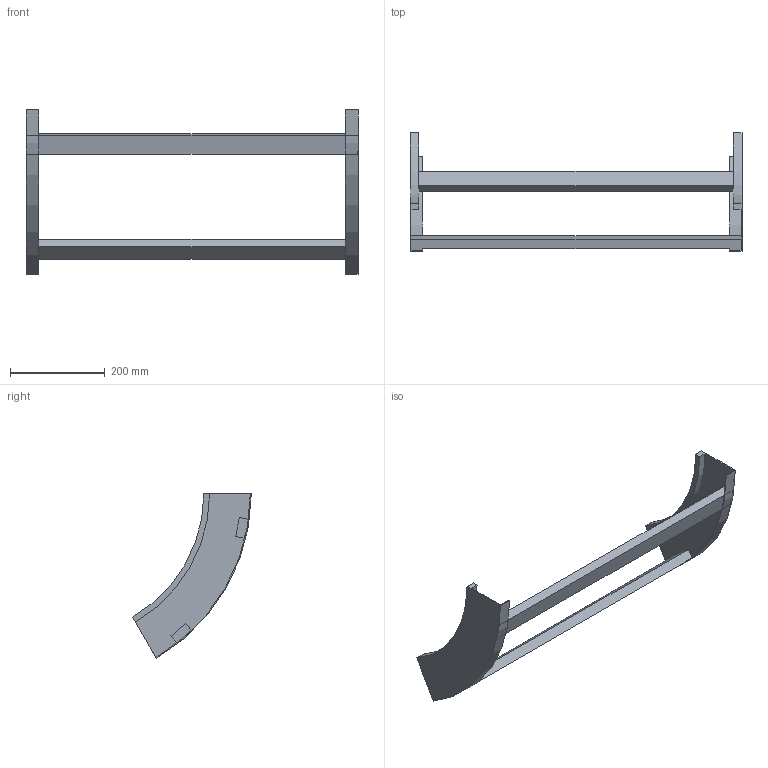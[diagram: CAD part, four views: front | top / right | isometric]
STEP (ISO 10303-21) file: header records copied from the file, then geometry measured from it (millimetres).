
FILE_DESCRIPTION (( 'STEP AP214' ), '1' );
FILE_NAME ('B2X40B3J700XX.step', '2025-03-20T10:15:44', ( '' ), ( '' ), 'SwSTEP 2.0', 'SolidWorks 2023', '' );
FILE_SCHEMA (( 'AUTOMOTIVE_DESIGN' ));
Length unit declared in the file: millimetre
Products named in the file (3): TRAVERSINO_700; B2X40B3J700XX; B2_LONGH.SALITA_60°_H112.5_R300
Assembly tree (4 placements, depth 2):
  B2X40B3J700XX
    B2_LONGH.SALITA_60°_H112.5_R300  x2
    TRAVERSINO_700  x2
Bounding box: 700 x 250 x 346.41 mm (x, y, z)
Volume: 1438960.7 mm3; surface area: 385271.3 mm2
Topology: 4 solids, 4 shells, 32 faces, 72 edges, 48 vertices
Faces by surface type: plane 24, cylinder 8
Entity records: 552 total; most frequent: DIRECTION 90, CARTESIAN_POINT 83, ORIENTED_EDGE 72, EDGE_CURVE 36, AXIS2_PLACEMENT_3D 31, VECTOR 28, LINE 28, VERTEX_POINT 24
